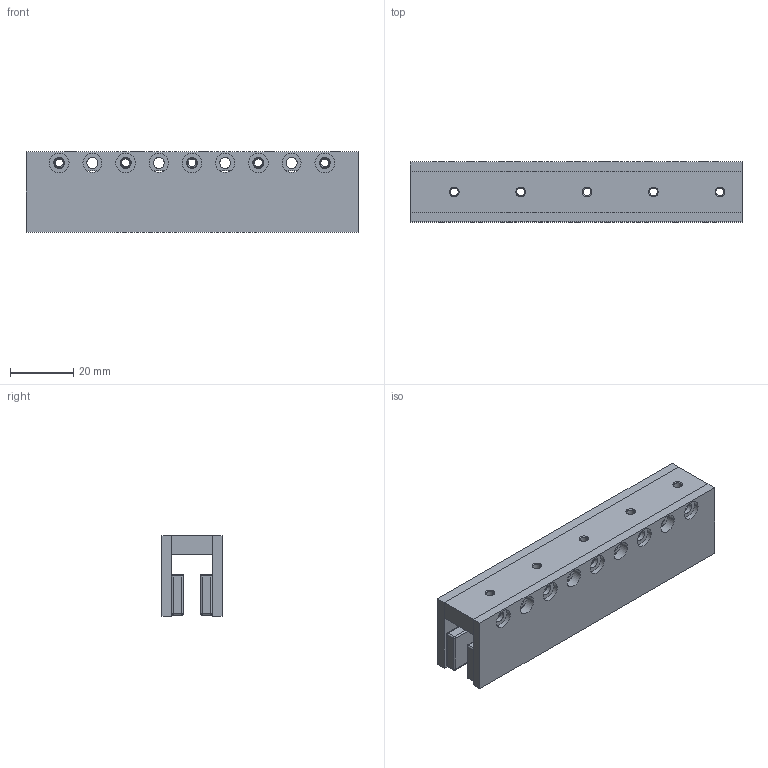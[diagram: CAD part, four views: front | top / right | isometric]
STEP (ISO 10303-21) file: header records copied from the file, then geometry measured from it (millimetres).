
FILE_DESCRIPTION (( 'STEP AP214' ), '1' );
FILE_NAME ('JKA1-105¶¨×Ó.STEP', '2025-09-05T12:33:13', ( '' ), ( '' ), 'SwSTEP 2.0', 'SolidWorks 2016', '' );
FILE_SCHEMA (( 'AUTOMOTIVE_DESIGN' ));
Length unit declared in the file: millimetre
Products named in the file (1): JKA1-105隅赽
Bounding box: 105 x 19 x 25.4 mm (x, y, z)
Surface area: 22561.1 mm2 (no closed solid volume)
Topology: 0 solids, 23 shells, 474 faces, 1158 edges, 628 vertices
Faces by surface type: cylinder 254, plane 112, sphere 88, cone 20
Entity records: 18281 total; most frequent: DIRECTION 2552, CARTESIAN_POINT 2173, ORIENTED_EDGE 1936, EDGE_CURVE 1070, AXIS2_PLACEMENT_3D 1007, VERTEX_POINT 628, EDGE_LOOP 548, LINE 538
